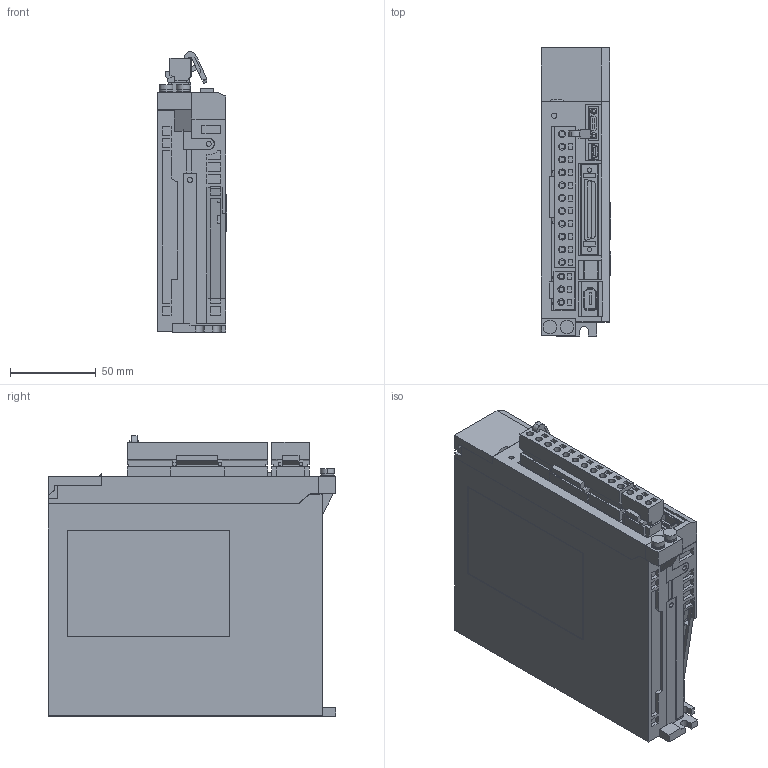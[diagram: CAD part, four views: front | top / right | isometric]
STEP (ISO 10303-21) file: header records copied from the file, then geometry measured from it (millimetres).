
FILE_DESCRIPTION (( 'STEP AP203' ), '1' );
FILE_NAME ('sgd7s_1r6a00a.STEP', '2014-03-06T04:29:14', ( '匠エンジニアリング山之内' ), ( 'TAKUMI-Engniaring' ), 'SwSTEP 2.0', 'SolidWorks 2006303', '' );
FILE_SCHEMA (( 'CONFIG_CONTROL_DESIGN' ));
Length unit declared in the file: millimetre
Products named in the file (9): sgd7s_1r6a00a_connector_2; sgd7s_1r6a00a_connector_3; sgd7s_1r6a00a; sgd7s_1r6a00a_base; sgd7s_1r6a00a_connector; sgd7s_1r6a00a_pin; sgd7s_1r6a00a_connector_1; sgd7s_1r6a00a_cover; sgd7s_1r6a00a_cover2
Assembly tree (9 placements, depth 3):
  sgd7s_1r6a00a
    sgd7s_1r6a00a_connector
      sgd7s_1r6a00a_pin
      sgd7s_1r6a00a_connector_2
    sgd7s_1r6a00a_cover2  x2
    sgd7s_1r6a00a_connector_3
    sgd7s_1r6a00a_base
    sgd7s_1r6a00a_connector_1
    sgd7s_1r6a00a_cover
Bounding box: 40.5 x 168 x 163.83 mm (x, y, z)
Volume: 830052.5 mm3; surface area: 130859.9 mm2
Topology: 8 solids, 8 shells, 1641 faces, 4312 edges, 2845 vertices
Faces by surface type: plane 1438, cylinder 198, cone 4, sphere 1
Entity records: 50177 total; most frequent: CARTESIAN_POINT 8700, ORIENTED_EDGE 8516, DIRECTION 7932, EDGE_CURVE 4258, VECTOR 3850, LINE 3850, VERTEX_POINT 2809, AXIS2_PLACEMENT_3D 2041
